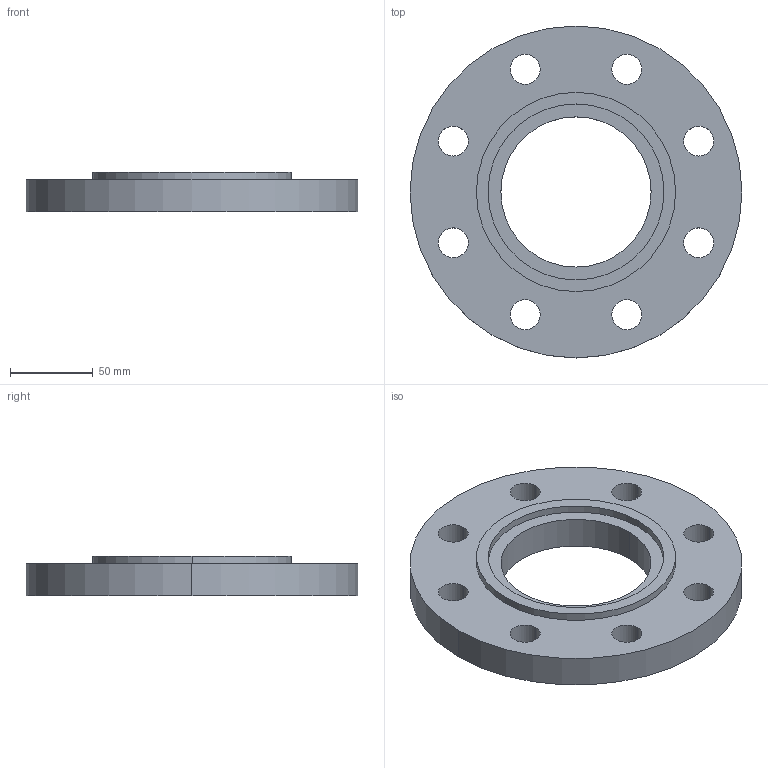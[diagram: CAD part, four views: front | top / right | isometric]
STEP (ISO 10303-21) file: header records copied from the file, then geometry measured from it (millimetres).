
FILE_DESCRIPTION (( 'STEP AP214' ), '1' );
FILE_NAME ('PN40 DN80 Type 01 - Type C Face.STEP', '2019-01-01T19:48:28', ( '' ), ( '' ), 'SwSTEP 2.0', 'SolidWorks 2019', '' );
FILE_SCHEMA (( 'AUTOMOTIVE_DESIGN' ));
Length unit declared in the file: millimetre
Products named in the file (1): PN40 DN80 Type 01 - Type C Face
Bounding box: 200 x 200 x 24 mm (x, y, z)
Volume: 458660.1 mm3; surface area: 75708.1 mm2
Topology: 1 solids, 1 shells, 28 faces, 72 edges, 48 vertices
Faces by surface type: cylinder 24, plane 4
Entity records: 954 total; most frequent: DIRECTION 178, CARTESIAN_POINT 149, ORIENTED_EDGE 144, AXIS2_PLACEMENT_3D 77, EDGE_CURVE 72, CIRCLE 48, VERTEX_POINT 48, EDGE_LOOP 48
